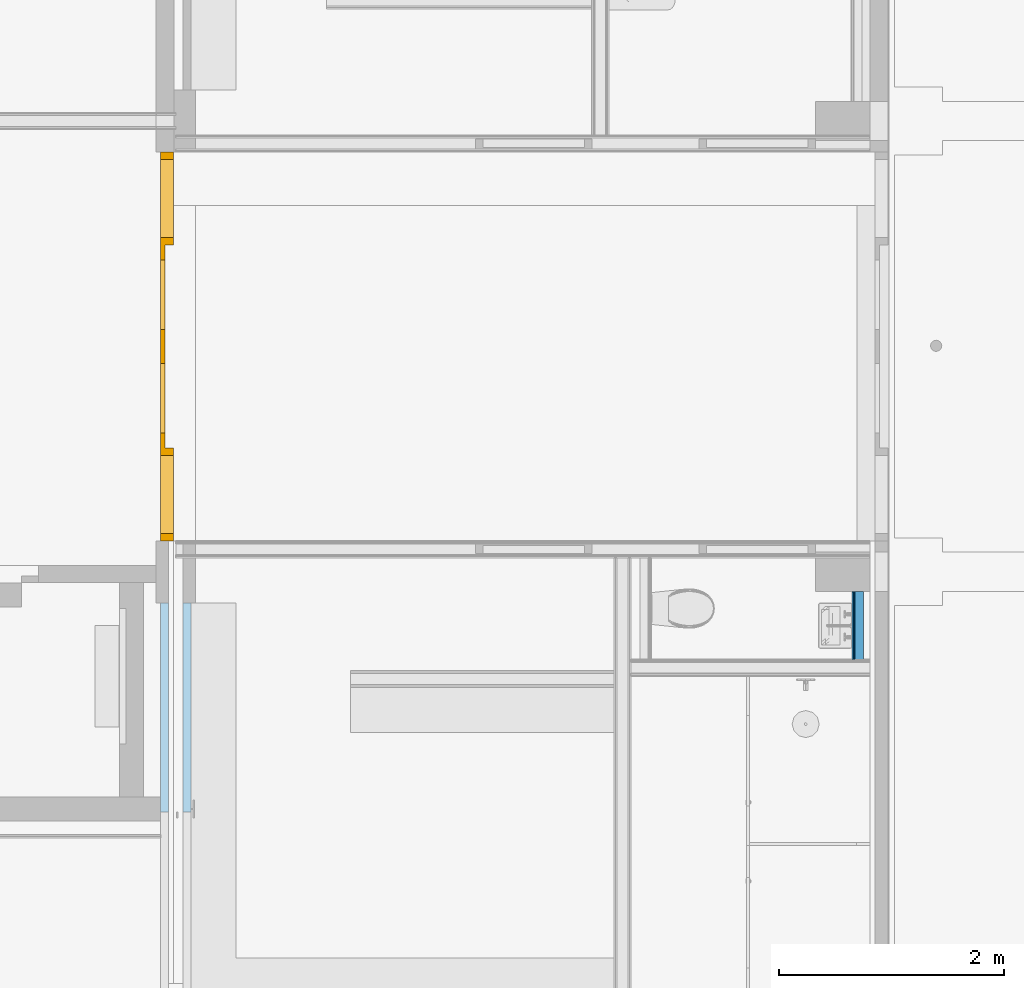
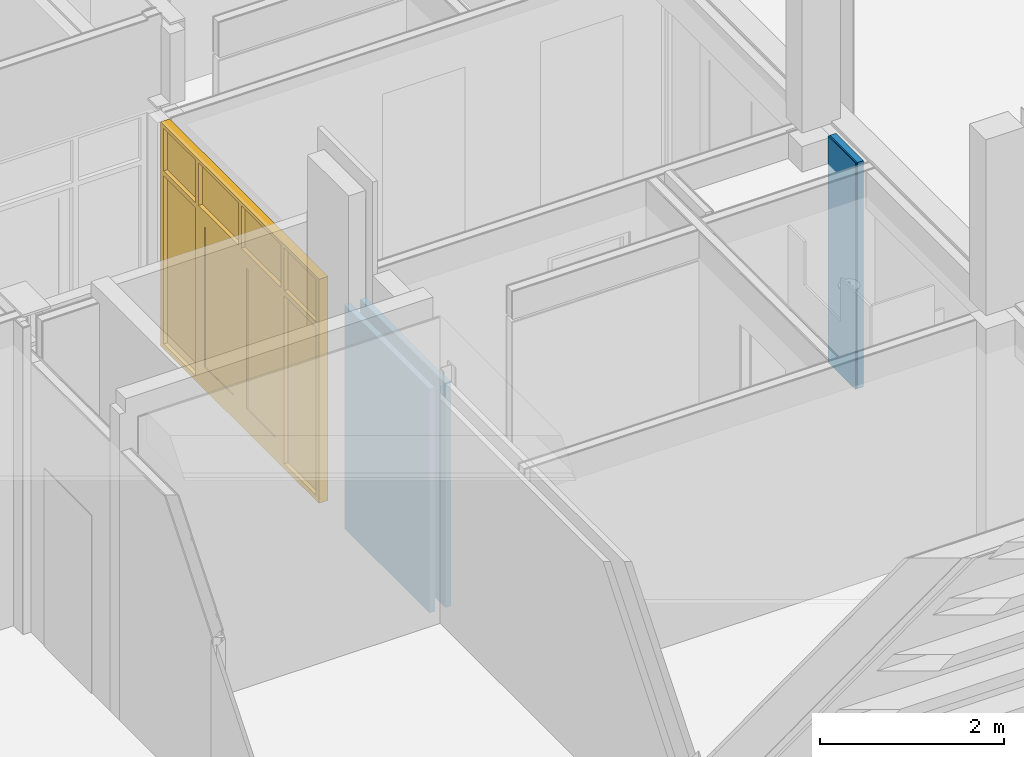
# One storey, part 79 of 109: 3 building element parts, 1 door, 1 opening, 2 elements without a shape of their own, plus 2 elements that do not belong to this part.
"""IFC2X3 building model written with IfcOpenShell, lengths in millimetres."""

from ifc_helpers import new_model, entity, si_unit, converted_unit, derived_unit, money_unit, direction, frame, origin_with_axes, place, context, subcontext, project, spatial, open_shell, faceted_brep, surface_model, material, type_object, element, fill, aggregate, save


model = new_model("IFC2X3")

# Units and contexts
model_context = context("Model", 3, precision=0.01, world=origin_with_axes(), true_north=direction((0.0, 1.0)))
body_context = subcontext(model_context, "Body", "Model", "MODEL_VIEW")
ifc_project = project(units=[si_unit("LENGTHUNIT", "METRE", prefix="MILLI"), si_unit("AREAUNIT", "SQUARE_METRE"), si_unit("VOLUMEUNIT", "CUBIC_METRE"), converted_unit("PLANEANGLEUNIT", "DEGREE", entity("IfcPlaneAngleMeasure", 0.0174532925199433), si_unit("PLANEANGLEUNIT", "RADIAN"), dimensions=[0, 0, 0, 0, 0, 0, 0]), money_unit("EUR"), converted_unit("TIMEUNIT", "Year", entity("IfcTimeMeasure", 31557600.0), si_unit("TIMEUNIT", "SECOND"), dimensions=[0, 0, 1, 0, 0, 0, 0]), si_unit("MASSUNIT", "GRAM", prefix="KILO"), si_unit("THERMODYNAMICTEMPERATUREUNIT", "DEGREE_CELSIUS"), si_unit("LUMINOUSINTENSITYUNIT", "LUMEN"), si_unit("ENERGYUNIT", "JOULE", prefix="MEGA"), derived_unit("THERMALCONDUCTANCEUNIT", [(si_unit("POWERUNIT", "WATT"), 1), (si_unit("LENGTHUNIT", "METRE"), -1), (si_unit("THERMODYNAMICTEMPERATUREUNIT", "KELVIN"), -1)]), derived_unit("SPECIFICHEATCAPACITYUNIT", [(si_unit("ENERGYUNIT", "JOULE"), 1), (si_unit("MASSUNIT", "GRAM", prefix="KILO"), -1), (si_unit("THERMODYNAMICTEMPERATUREUNIT", "KELVIN"), -1)]), derived_unit("MASSDENSITYUNIT", [(si_unit("MASSUNIT", "GRAM", prefix="KILO"), 1), (si_unit("VOLUMEUNIT", "CUBIC_METRE"), -1)])], contexts=[model_context])

# Site, building, storey
site_placement = place(None, origin_with_axes())
site = spatial("IfcSite", under=ifc_project, at=site_placement, Name="<site naam>", CompositionType="ELEMENT")
building_placement = place(site_placement, origin_with_axes())
building = spatial("IfcBuilding", under=site, at=building_placement, Name="<Naam gebouw>", CompositionType="ELEMENT")
storey_placement = place(building_placement, origin_with_axes())
storey = spatial("IfcBuildingStorey", under=building, at=storey_placement, Name="00 Begane grond", CompositionType="ELEMENT", Elevation=0.0)

# Door
door_style = type_object("IfcDoorStyle", Name="D2 bl zl2 27", ConstructionType="NOTDEFINED", OperationType="USERDEFINED", ParameterTakesPrecedence=False, Sizeable=False)
wall_1_placement = place(storey_placement, frame((52000.00000000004, 11725.00000000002, 0.0), z_axis=(0.0, 0.0, 1.0), x_axis=(0.0, -1.0, 0.0)))
opening_placement = place(wall_1_placement, frame((1724.999999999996, 0.0, 0.0), z_axis=(0.0, 0.0, 1.0), x_axis=(1.0, 0.0, 0.0)))
door_placement = place(opening_placement, frame((1724.999999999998, 0.0, 0.0), z_axis=(0.0, 0.0, 1.0), x_axis=(-1.0, 0.0, 0.0)))
door = element("IfcDoor", 1, at=door_placement, inside=storey, type_object=door_style, Name="22_BI-D-06_305", ObjectType="DOOR", OverallHeight=3000.0, OverallWidth=3450.0, context=body_context, shape_type="SurfaceModel", body=[
    faceted_brep([(3449.999999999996, 134.999999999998, 2978.0), (3449.999999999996, 21.0000000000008, 2978.0), (3449.999999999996, 21.0000000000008, 2933.0), (3449.999999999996, 134.999999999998, 2933.0), (0.0, 21.0000000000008, 2978.0), (0.0, 134.999999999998, 2978.0), (0.0, 21.0000000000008, 2933.0), (67.00000000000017, 21.0000000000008, 2933.0), (757.9999999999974, 21.0000000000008, 2933.0), (824.9999999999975, 21.0000000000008, 2933.0), (2624.999999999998, 21.0000000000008, 2933.0), (2691.999999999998, 21.0000000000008, 2933.0), (3382.999999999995, 21.0000000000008, 2933.0), (3382.999999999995, 134.999999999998, 2933.0), (2691.999999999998, 134.999999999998, 2933.0), (2624.999999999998, 134.999999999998, 2933.0), (824.9999999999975, 134.999999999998, 2933.0), (757.9999999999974, 134.999999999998, 2933.0), (67.00000000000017, 134.999999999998, 2933.0), (0.0, 134.999999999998, 2933.0)], [[[0, 1, 2, 3]], [[4, 1, 0, 5]], [[1, 4, 6, 7, 8, 9, 10, 11, 12, 2]], [[13, 3, 2, 12]], [[5, 0, 3, 13, 14, 15, 16, 17, 18, 19]], [[4, 5, 19, 6]], [[19, 18, 7, 6]], [[18, 17, 8, 7]], [[17, 16, 9, 8]], [[16, 15, 10, 9]], [[15, 14, 11, 10]], [[14, 13, 12, 11]]]),
    faceted_brep([(3449.999999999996, 134.999999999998, 0.0), (3449.999999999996, 21.0000000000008, 0.0), (3382.999999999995, 21.0000000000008, 0.0), (3382.999999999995, 134.999999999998, 0.0), (3449.999999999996, 134.999999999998, 2933.0), (3449.999999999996, 21.0000000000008, 2933.0), (3382.999999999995, 21.0000000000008, 2933.0), (3382.999999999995, 21.0000000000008, 2367.0), (3382.999999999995, 21.0000000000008, 2300.0), (3382.999999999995, 21.0000000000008, 66.99999999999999), (3382.999999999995, 134.999999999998, 67.0), (3382.999999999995, 134.999999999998, 2300.0), (3382.999999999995, 134.999999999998, 2367.0), (3382.999999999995, 134.999999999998, 2933.0)], [[[0, 1, 2, 3]], [[4, 5, 1, 0]], [[1, 5, 6, 7, 8, 9, 2]], [[3, 2, 9, 10]], [[0, 3, 10, 11, 12, 13, 4]], [[13, 6, 5, 4]], [[12, 7, 6, 13]], [[11, 8, 7, 12]], [[10, 9, 8, 11]]]),
    faceted_brep([(2624.999999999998, 94.99999999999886, 2317.0), (2624.999999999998, 94.99999999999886, 2300.0), (2624.999999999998, 21.0000000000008, 2300.0), (2624.999999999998, 21.0000000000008, 2367.0), (2624.999999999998, 134.999999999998, 2367.0), (2624.999999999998, 134.999999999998, 2317.0), (2641.999999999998, 94.99999999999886, 2317.0), (2641.999999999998, 94.99999999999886, 0.0), (2624.999999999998, 94.99999999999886, 0.0), (2624.999999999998, 21.0000000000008, 0.0), (2691.999999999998, 21.0000000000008, 0.0), (2691.999999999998, 21.0000000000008, 66.99999999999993), (2691.999999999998, 21.0000000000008, 2300.0), (2691.999999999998, 21.0000000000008, 2367.0), (2691.999999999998, 21.0000000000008, 2933.0), (2624.999999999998, 21.0000000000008, 2933.0), (2624.999999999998, 134.999999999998, 2933.0), (2641.999999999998, 134.999999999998, 2317.0), (2691.999999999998, 134.999999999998, 2933.0), (2691.999999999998, 134.999999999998, 2367.0), (2691.999999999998, 134.999999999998, 2300.0), (2691.999999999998, 134.999999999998, 66.99999999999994), (2691.999999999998, 134.999999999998, 0.0), (2641.999999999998, 134.999999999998, 0.0)], [[[0, 1, 2, 3, 4, 5]], [[0, 6, 7, 8, 1]], [[8, 9, 2, 1]], [[2, 9, 10, 11, 12, 13, 14, 15, 3]], [[16, 4, 3, 15]], [[17, 5, 4, 16, 18, 19, 20, 21, 22, 23]], [[5, 17, 6, 0]], [[23, 7, 6, 17]], [[7, 23, 22, 10, 9, 8]], [[22, 21, 11, 10]], [[21, 20, 12, 11]], [[20, 19, 13, 12]], [[19, 18, 14, 13]], [[18, 16, 15, 14]]]),
    faceted_brep([(3382.999999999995, 134.999999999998, 67.0), (3382.999999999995, 21.0000000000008, 66.99999999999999), (3382.999999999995, 21.0000000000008, 0.0), (3382.999999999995, 134.999999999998, 0.0), (2691.999999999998, 134.999999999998, 67.0), (2691.999999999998, 21.0000000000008, 66.99999999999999), (2691.999999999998, 21.0000000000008, 0.0), (2691.999999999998, 134.999999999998, 0.0)], [[[0, 1, 2, 3]], [[4, 5, 1, 0]], [[1, 5, 6, 2]], [[3, 2, 6, 7]], [[0, 3, 7, 4]], [[7, 6, 5, 4]]]),
    faceted_brep([(0.0, 134.999999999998, 0.0), (0.0, 21.0000000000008, 0.0), (0.0, 21.0000000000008, 2933.0), (0.0, 134.999999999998, 2933.0), (67.00000000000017, 134.999999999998, 0.0), (67.00000000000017, 21.0000000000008, 0.0), (67.00000000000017, 21.0000000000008, 66.99999999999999), (67.00000000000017, 21.0000000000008, 2300.0), (67.00000000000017, 21.0000000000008, 2367.0), (67.00000000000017, 21.0000000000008, 2933.0), (67.00000000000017, 134.999999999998, 2933.0), (67.00000000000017, 134.999999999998, 2367.0), (67.00000000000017, 134.999999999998, 2300.0), (67.00000000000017, 134.999999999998, 67.0)], [[[0, 1, 2, 3]], [[4, 5, 1, 0]], [[1, 5, 6, 7, 8, 9, 2]], [[3, 2, 9, 10]], [[0, 3, 10, 11, 12, 13, 4]], [[13, 6, 5, 4]], [[12, 7, 6, 13]], [[11, 8, 7, 12]], [[10, 9, 8, 11]]]),
    faceted_brep([(807.9999999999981, 134.999999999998, 2317.0), (807.9999999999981, 134.999999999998, 0.0), (757.9999999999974, 134.999999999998, 0.0), (757.9999999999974, 134.999999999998, 66.99999999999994), (757.9999999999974, 134.999999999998, 2300.0), (757.9999999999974, 134.999999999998, 2367.0), (757.9999999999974, 134.999999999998, 2933.0), (824.9999999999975, 134.999999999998, 2933.0), (824.9999999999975, 134.999999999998, 2367.0), (824.9999999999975, 134.999999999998, 2317.0), (807.9999999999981, 94.99999999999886, 2317.0), (807.9999999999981, 94.99999999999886, 0.0), (824.9999999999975, 94.99999999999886, 0.0), (824.9999999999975, 21.0000000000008, 0.0), (757.9999999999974, 21.0000000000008, 0.0), (757.9999999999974, 21.0000000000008, 66.99999999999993), (757.9999999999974, 21.0000000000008, 2300.0), (757.9999999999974, 21.0000000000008, 2367.0), (757.9999999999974, 21.0000000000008, 2933.0), (824.9999999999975, 21.0000000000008, 2933.0), (824.9999999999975, 21.0000000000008, 2367.0), (824.9999999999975, 94.99999999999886, 2317.0), (824.9999999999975, 21.0000000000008, 2300.0), (824.9999999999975, 94.99999999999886, 2300.0)], [[[0, 1, 2, 3, 4, 5, 6, 7, 8, 9]], [[0, 10, 11, 1]], [[11, 12, 13, 14, 2, 1]], [[3, 2, 14, 15]], [[4, 3, 15, 16]], [[5, 4, 16, 17]], [[6, 5, 17, 18]], [[7, 6, 18, 19]], [[8, 7, 19, 20]], [[21, 9, 8, 20, 22, 23]], [[9, 21, 10, 0]], [[11, 10, 21, 23, 12]], [[23, 22, 13, 12]], [[15, 14, 13, 22, 20, 19, 18, 17, 16]]]),
    faceted_brep([(757.9999999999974, 134.999999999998, 67.0), (757.9999999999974, 21.0000000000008, 66.99999999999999), (757.9999999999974, 21.0000000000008, 0.0), (757.9999999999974, 134.999999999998, 0.0), (67.00000000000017, 134.999999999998, 67.0), (67.00000000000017, 21.0000000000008, 66.99999999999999), (67.00000000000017, 21.0000000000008, 0.0), (67.00000000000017, 134.999999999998, 0.0)], [[[0, 1, 2, 3]], [[4, 5, 1, 0]], [[1, 5, 6, 2]], [[3, 2, 6, 7]], [[0, 3, 7, 4]], [[7, 6, 5, 4]]]),
    faceted_brep([(3382.999999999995, 134.999999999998, 2300.0), (3382.999999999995, 21.0000000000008, 2300.0), (2691.999999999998, 21.0000000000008, 2300.0), (2691.999999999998, 134.999999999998, 2300.0), (3382.999999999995, 134.999999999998, 2367.0), (3382.999999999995, 21.0000000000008, 2367.0), (2691.999999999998, 21.0000000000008, 2367.0), (2691.999999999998, 134.999999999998, 2367.0)], [[[0, 1, 2, 3]], [[4, 5, 1, 0]], [[1, 5, 6, 2]], [[3, 2, 6, 7]], [[0, 3, 7, 4]], [[7, 6, 5, 4]]]),
    faceted_brep([(67.00000000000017, 134.999999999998, 2367.0), (67.00000000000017, 21.0000000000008, 2367.0), (757.9999999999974, 21.0000000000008, 2367.0), (757.9999999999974, 134.999999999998, 2367.0), (67.00000000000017, 134.999999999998, 2300.0), (67.00000000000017, 21.0000000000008, 2300.0), (757.9999999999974, 21.0000000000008, 2300.0), (757.9999999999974, 134.999999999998, 2300.0)], [[[0, 1, 2, 3]], [[4, 5, 1, 0]], [[1, 5, 6, 2]], [[3, 2, 6, 7]], [[0, 3, 7, 4]], [[7, 6, 5, 4]]]),
    faceted_brep([(824.9999999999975, 94.99999999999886, 2317.0), (824.9999999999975, 94.99999999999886, 2300.0), (824.9999999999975, 21.0000000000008, 2300.0), (824.9999999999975, 21.0000000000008, 2367.0), (824.9999999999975, 134.999999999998, 2367.0), (824.9999999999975, 134.999999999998, 2317.0), (2624.999999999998, 94.99999999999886, 2317.0), (2624.999999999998, 94.99999999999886, 2300.0), (2624.999999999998, 21.0000000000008, 2300.0), (2624.999999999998, 21.0000000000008, 2367.0), (2624.999999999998, 134.999999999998, 2367.0), (2624.999999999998, 134.999999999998, 2317.0)], [[[0, 1, 2, 3, 4, 5]], [[0, 6, 7, 1]], [[7, 8, 2, 1]], [[8, 9, 3, 2]], [[10, 4, 3, 9]], [[5, 4, 10, 11]], [[5, 11, 6, 0]], [[6, 11, 10, 9, 8, 7]]]),
    faceted_brep([(807.9999999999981, 134.999999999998, 300.0), (957.9999999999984, 134.999999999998, 300.0), (957.9999999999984, 94.99999999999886, 300.0), (807.9999999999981, 94.99999999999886, 300.0), (807.9999999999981, 134.999999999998, 2167.0), (957.9999999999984, 134.999999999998, 2167.0), (957.9999999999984, 94.99999999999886, 2167.0), (807.9999999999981, 94.99999999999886, 2167.0)], [[[0, 1, 2, 3]], [[0, 4, 5, 1]], [[1, 5, 6, 2]], [[3, 2, 6, 7]], [[4, 0, 3, 7]], [[5, 4, 7, 6]]]),
    faceted_brep([(1724.999999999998, 134.999999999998, 300.0), (1724.999999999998, 134.999999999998, 2167.0), (1724.999999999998, 94.99999999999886, 2167.0), (1724.999999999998, 94.99999999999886, 300.0), (1574.999999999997, 134.999999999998, 300.0), (1574.999999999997, 134.999999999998, 2167.0), (1574.999999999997, 94.99999999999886, 2167.0), (1574.999999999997, 94.99999999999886, 300.0)], [[[0, 1, 2, 3]], [[0, 4, 5, 1]], [[1, 5, 6, 2]], [[3, 2, 6, 7]], [[4, 0, 3, 7]], [[5, 4, 7, 6]]]),
    faceted_brep([(807.9999999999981, 134.999999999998, 0.0), (1724.999999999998, 134.999999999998, 0.0), (1724.999999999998, 94.99999999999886, 0.0), (807.9999999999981, 94.99999999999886, 0.0), (807.9999999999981, 134.999999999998, 300.0), (957.9999999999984, 134.999999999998, 300.0), (1574.999999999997, 134.999999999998, 300.0), (1724.999999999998, 134.999999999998, 300.0), (1724.999999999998, 94.99999999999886, 300.0), (1574.999999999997, 94.99999999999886, 300.0), (957.9999999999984, 94.99999999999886, 300.0), (807.9999999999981, 94.99999999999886, 300.0)], [[[0, 1, 2, 3]], [[0, 4, 5, 6, 7, 1]], [[1, 7, 8, 2]], [[3, 2, 8, 9, 10, 11]], [[4, 0, 3, 11]], [[5, 4, 11, 10]], [[6, 5, 10, 9]], [[7, 6, 9, 8]]]),
    faceted_brep([(807.9999999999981, 134.999999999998, 2317.0), (807.9999999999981, 134.999999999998, 2167.0), (807.9999999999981, 94.99999999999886, 2167.0), (807.9999999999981, 94.99999999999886, 2317.0), (1724.999999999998, 134.999999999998, 2317.0), (1724.999999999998, 134.999999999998, 2167.0), (1574.999999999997, 134.999999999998, 2167.0), (957.9999999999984, 134.999999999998, 2167.0), (957.9999999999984, 94.99999999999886, 2167.0), (1574.999999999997, 94.99999999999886, 2167.0), (1724.999999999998, 94.99999999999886, 2167.0), (1724.999999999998, 94.99999999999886, 2317.0)], [[[0, 1, 2, 3]], [[0, 4, 5, 6, 7, 1]], [[1, 7, 8, 2]], [[3, 2, 8, 9, 10, 11]], [[4, 0, 3, 11]], [[5, 4, 11, 10]], [[6, 5, 10, 9]], [[7, 6, 9, 8]]]),
    surface_model("IfcShellBasedSurfaceModel", [(957.9999999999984, 120.9999999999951, 300.0), (957.9999999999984, 120.9999999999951, 2167.0), (1574.999999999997, 120.9999999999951, 2167.0), (1574.999999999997, 120.9999999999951, 300.0)], [open_shell([[[0, 1, 2, 3]]])]),
    surface_model("IfcShellBasedSurfaceModel", [(957.9999999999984, 109.0000000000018, 300.0), (1574.999999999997, 108.9999999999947, 300.0), (1574.999999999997, 108.9999999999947, 2167.0), (957.9999999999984, 108.9999999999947, 2167.0)], [open_shell([[[0, 1, 2, 3]]])]),
    faceted_brep([(2641.999999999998, 134.999999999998, 300.0), (2641.999999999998, 94.99999999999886, 300.0), (2491.999999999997, 94.99999999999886, 300.0), (2491.999999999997, 134.999999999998, 300.0), (2641.999999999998, 134.999999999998, 2167.0), (2641.999999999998, 94.99999999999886, 2167.0), (2491.999999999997, 94.99999999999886, 2167.0), (2491.999999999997, 134.999999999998, 2167.0)], [[[0, 1, 2, 3]], [[4, 5, 1, 0]], [[1, 5, 6, 2]], [[3, 2, 6, 7]], [[0, 3, 7, 4]], [[7, 6, 5, 4]]]),
    faceted_brep([(1724.999999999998, 134.999999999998, 300.0), (1724.999999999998, 94.99999999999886, 300.0), (1724.999999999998, 94.99999999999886, 2167.0), (1724.999999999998, 134.999999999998, 2167.0), (1874.999999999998, 134.999999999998, 300.0), (1874.999999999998, 94.99999999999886, 300.0), (1874.999999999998, 94.99999999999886, 2167.0), (1874.999999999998, 134.999999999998, 2167.0)], [[[0, 1, 2, 3]], [[4, 5, 1, 0]], [[1, 5, 6, 2]], [[3, 2, 6, 7]], [[0, 3, 7, 4]], [[7, 6, 5, 4]]]),
    faceted_brep([(2641.999999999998, 134.999999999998, 0.0), (2641.999999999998, 94.99999999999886, 0.0), (1724.999999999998, 94.99999999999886, 0.0), (1724.999999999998, 134.999999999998, 0.0), (2641.999999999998, 134.999999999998, 300.0), (2641.999999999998, 94.99999999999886, 300.0), (2491.999999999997, 94.99999999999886, 300.0), (1874.999999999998, 94.99999999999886, 300.0), (1724.999999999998, 94.99999999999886, 300.0), (1724.999999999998, 134.999999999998, 300.0), (1874.999999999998, 134.999999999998, 300.0), (2491.999999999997, 134.999999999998, 300.0)], [[[0, 1, 2, 3]], [[4, 5, 1, 0]], [[1, 5, 6, 7, 8, 2]], [[3, 2, 8, 9]], [[0, 3, 9, 10, 11, 4]], [[11, 6, 5, 4]], [[10, 7, 6, 11]], [[9, 8, 7, 10]]]),
    faceted_brep([(2641.999999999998, 134.999999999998, 2317.0), (2641.999999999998, 94.99999999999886, 2317.0), (2641.999999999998, 94.99999999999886, 2167.0), (2641.999999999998, 134.999999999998, 2167.0), (1724.999999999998, 134.999999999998, 2317.0), (1724.999999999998, 94.99999999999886, 2317.0), (1724.999999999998, 94.99999999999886, 2167.0), (1874.999999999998, 94.99999999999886, 2167.0), (2491.999999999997, 94.99999999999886, 2167.0), (2491.999999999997, 134.999999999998, 2167.0), (1874.999999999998, 134.999999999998, 2167.0), (1724.999999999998, 134.999999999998, 2167.0)], [[[0, 1, 2, 3]], [[4, 5, 1, 0]], [[1, 5, 6, 7, 8, 2]], [[3, 2, 8, 9]], [[0, 3, 9, 10, 11, 4]], [[11, 6, 5, 4]], [[10, 7, 6, 11]], [[9, 8, 7, 10]]]),
    surface_model("IfcShellBasedSurfaceModel", [(2491.999999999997, 120.9999999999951, 300.0), (1874.999999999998, 120.9999999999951, 300.0), (1874.999999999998, 120.9999999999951, 2167.0), (2491.999999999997, 120.9999999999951, 2167.0)], [open_shell([[[0, 1, 2, 3]]])]),
    surface_model("IfcShellBasedSurfaceModel", [(2491.999999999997, 108.9999999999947, 300.0), (2491.999999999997, 108.9999999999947, 2167.0), (1874.999999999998, 108.9999999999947, 2167.0), (1874.999999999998, 108.9999999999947, 300.0)], [open_shell([[[0, 1, 2, 3]]])]),
    surface_model("IfcShellBasedSurfaceModel", [(3382.999999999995, 74.99999999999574, 2367.0), (3382.999999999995, 74.99999999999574, 2933.0), (2691.999999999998, 74.99999999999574, 2933.0), (2691.999999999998, 74.99999999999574, 2367.0)], [open_shell([[[0, 1, 2, 3]]])]),
    surface_model("IfcShellBasedSurfaceModel", [(3382.999999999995, 86.99999999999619, 2367.0), (2691.999999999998, 86.99999999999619, 2367.0), (2691.999999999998, 86.99999999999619, 2933.0), (3382.999999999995, 86.99999999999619, 2933.0)], [open_shell([[[0, 1, 2, 3]]])]),
    surface_model("IfcShellBasedSurfaceModel", [(1758.499999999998, 74.99999999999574, 2367.0), (2624.999999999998, 74.99999999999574, 2367.0), (2624.999999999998, 74.99999999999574, 2933.0), (1758.499999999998, 74.99999999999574, 2933.0)], [open_shell([[[0, 1, 2, 3]]])]),
    surface_model("IfcShellBasedSurfaceModel", [(1758.499999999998, 86.99999999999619, 2367.0), (1758.499999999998, 86.99999999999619, 2933.0), (2624.999999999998, 86.99999999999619, 2933.0), (2624.999999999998, 86.99999999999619, 2367.0)], [open_shell([[[0, 1, 2, 3]]])]),
    surface_model("IfcShellBasedSurfaceModel", [(824.9999999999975, 74.99999999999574, 2367.0), (1691.499999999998, 74.99999999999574, 2367.0), (1691.499999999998, 74.99999999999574, 2933.0), (824.9999999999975, 74.99999999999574, 2933.0)], [open_shell([[[0, 1, 2, 3]]])]),
    surface_model("IfcShellBasedSurfaceModel", [(824.9999999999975, 86.99999999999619, 2367.0), (824.9999999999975, 86.99999999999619, 2933.0), (1691.499999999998, 86.99999999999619, 2933.0), (1691.499999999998, 86.99999999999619, 2367.0)], [open_shell([[[0, 1, 2, 3]]])]),
    faceted_brep([(1758.499999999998, 21.0000000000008, 2367.0), (1691.499999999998, 21.0000000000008, 2367.0), (1691.499999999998, 134.999999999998, 2367.0), (1758.499999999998, 134.999999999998, 2367.0), (1758.499999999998, 21.0000000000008, 2933.0), (1691.499999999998, 21.0000000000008, 2933.0), (1691.499999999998, 134.999999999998, 2933.0), (1758.499999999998, 134.999999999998, 2933.0)], [[[0, 1, 2, 3]], [[0, 4, 5, 1]], [[1, 5, 6, 2]], [[3, 2, 6, 7]], [[4, 0, 3, 7]], [[5, 4, 7, 6]]]),
    surface_model("IfcShellBasedSurfaceModel", [(757.9999999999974, 74.99999999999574, 2367.0), (757.9999999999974, 74.99999999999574, 2933.0), (67.00000000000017, 74.99999999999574, 2933.0), (67.00000000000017, 74.99999999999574, 2367.0)], [open_shell([[[0, 1, 2, 3]]])]),
    surface_model("IfcShellBasedSurfaceModel", [(757.9999999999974, 86.99999999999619, 2367.0), (67.00000000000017, 86.99999999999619, 2367.0), (67.00000000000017, 86.99999999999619, 2933.0), (757.9999999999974, 86.99999999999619, 2933.0)], [open_shell([[[0, 1, 2, 3]]])]),
    surface_model("IfcShellBasedSurfaceModel", [(3382.999999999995, 74.99999999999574, 67.0), (3382.999999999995, 74.99999999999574, 2300.0), (2691.999999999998, 74.99999999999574, 2300.0), (2691.999999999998, 74.99999999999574, 67.0)], [open_shell([[[0, 1, 2, 3]]])]),
    surface_model("IfcShellBasedSurfaceModel", [(3382.999999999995, 86.99999999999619, 67.0), (2691.999999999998, 86.99999999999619, 67.0), (2691.999999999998, 86.99999999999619, 2300.0), (3382.999999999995, 86.99999999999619, 2300.0)], [open_shell([[[0, 1, 2, 3]]])]),
    surface_model("IfcShellBasedSurfaceModel", [(757.9999999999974, 74.99999999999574, 67.0), (757.9999999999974, 74.99999999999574, 2300.0), (67.00000000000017, 74.99999999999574, 2300.0), (67.00000000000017, 74.99999999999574, 67.0)], [open_shell([[[0, 1, 2, 3]]])]),
    surface_model("IfcShellBasedSurfaceModel", [(757.9999999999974, 86.99999999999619, 67.0), (67.00000000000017, 86.99999999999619, 67.0), (67.00000000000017, 86.99999999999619, 2300.0), (757.9999999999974, 86.99999999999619, 2300.0)], [open_shell([[[0, 1, 2, 3]]])]),
])

# Wall, opening
wall_type_1 = type_object("IfcWallType", Name="metalstud-lucht-metalstud 270 270", PredefinedType="NOTDEFINED")
wall_1 = element("IfcWall", 2, at=wall_1_placement, inside=storey, type_object=wall_type_1, Name="22_Binnenwand_metalstud-lucht-metalstud")
opening = element("IfcOpeningElement", 3, at=opening_placement, cuts=wall_1, Name="22_BI-D-06_305", context=body_context, shape_type="Brep", body=[
    faceted_brep([(1724.999999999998, 136.0000000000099, 3000.0), (1724.999999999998, 136.0000000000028, 0.0), (-1724.999999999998, 136.0000000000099, 0.0), (-1724.999999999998, 136.0000000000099, 3000.0), (1724.999999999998, -136.0000000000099, 3000.0), (1724.999999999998, -136.000000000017, 0.0), (-1724.999999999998, -136.0000000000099, 0.0), (-1724.999999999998, -136.0000000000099, 3000.0)], [[[0, 1, 2, 3]], [[4, 5, 1, 0]], [[5, 6, 2, 1]], [[6, 7, 3, 2]], [[7, 4, 0, 3]], [[6, 5, 4, 7]]]),
])

fill(opening, door)

# Building element part
ifc_material_1 = material(Name="metal_stud")
building_element_part_1_placement = place(wall_1_placement, origin_with_axes())
building_element_part_1 = element("IfcBuildingElementPart", 4, at=building_element_part_1_placement, material=ifc_material_1, Name="metal_stud", context=body_context, shape_type="Brep", body=[
    faceted_brep([(5853.999999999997, 134.999999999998, 0.0), (3999.999999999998, 134.999999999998, 0.0), (3999.999999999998, 134.999999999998, 2978.0), (5853.999999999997, 134.999999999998, 2978.0), (5853.999999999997, 64.99999999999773, 0.0), (3999.999999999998, 64.99999999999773, 0.0), (3999.999999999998, 64.99999999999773, 2978.0), (5853.999999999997, 64.99999999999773, 2978.0)], [[[0, 1, 2, 3]], [[4, 5, 1, 0]], [[5, 6, 2, 1]], [[3, 2, 6, 7]], [[4, 0, 3, 7]], [[7, 6, 5, 4]]]),
    faceted_brep([(0.0, 64.99999999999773, 2978.0), (3449.999999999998, 64.99999999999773, 2978.0), (3449.999999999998, 134.999999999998, 2978.0), (0.0, 134.999999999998, 2978.0), (0.0, 64.99999999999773, 0.0), (3449.999999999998, 64.99999999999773, 0.0), (3449.999999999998, 134.999999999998, 0.0), (0.0, 134.999999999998, 0.0)], [[[0, 1, 2, 3]], [[4, 5, 1, 0]], [[5, 6, 2, 1]], [[3, 2, 6, 7]], [[7, 4, 0, 3]], [[7, 6, 5, 4]]]),
])

building_element_part_2_placement = place(wall_1_placement, origin_with_axes())
building_element_part_2 = element("IfcBuildingElementPart", 5, at=building_element_part_2_placement, material=ifc_material_1, Name="metal_stud", context=body_context, shape_type="Brep", body=[
    faceted_brep([(5853.999999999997, -64.99999999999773, 0.0), (3999.999999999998, -64.99999999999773, 0.0), (3999.999999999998, -64.99999999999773, 2978.0), (5853.999999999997, -64.99999999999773, 2978.0), (5853.999999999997, -134.999999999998, 0.0), (3999.999999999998, -134.999999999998, 0.0), (3999.999999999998, -134.999999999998, 2978.0), (5853.999999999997, -134.999999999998, 2978.0)], [[[0, 1, 2, 3]], [[4, 5, 1, 0]], [[5, 6, 2, 1]], [[3, 2, 6, 7]], [[4, 0, 3, 7]], [[7, 6, 5, 4]]]),
    faceted_brep([(0.0, -134.999999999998, 2978.0), (3449.999999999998, -134.999999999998, 2978.0), (3449.999999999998, -64.99999999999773, 2978.0), (0.0, -64.99999999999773, 2978.0), (0.0, -134.999999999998, 0.0), (3449.999999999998, -134.999999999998, 0.0), (3449.999999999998, -64.99999999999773, 0.0), (0.0, -64.99999999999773, 0.0)], [[[0, 1, 2, 3]], [[4, 5, 1, 0]], [[5, 6, 2, 1]], [[3, 2, 6, 7]], [[7, 4, 0, 3]], [[7, 6, 5, 4]]]),
])

aggregate(wall_1, [building_element_part_1, building_element_part_2])

# Wall, building element parts
wall_type_2 = type_object("IfcWallType", Name="MS-03 GF 100 HTT DGS V/100.2 100", PredefinedType="NOTDEFINED")
wall_2_placement = place(storey_placement, frame((57999.99995868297, 7225.000000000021, 0.0), z_axis=(0.0, 0.0, 1.0), x_axis=(7.621875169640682e-08, 0.9999999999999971, 0.0)))
wall_2 = element("IfcWall", 6, at=wall_2_placement, inside=storey, type_object=wall_type_2, Name="22_Binnenwand_MS-03")
ifc_material_2 = material(Name="gipsplaat")
building_element_part_3_placement = place(wall_2_placement, origin_with_axes())
building_element_part_3 = element("IfcBuildingElementPart", 7, at=building_element_part_3_placement, material=ifc_material_2, Name="gipsplaat", context=body_context, shape_type="Brep", body=[
    faceted_brep([(2.749409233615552e-05, -12.50000000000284, 2.999999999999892), (600.0000152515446, -12.49995426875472, 2.999999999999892), (599.9999620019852, -12.49995426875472, 3008.0), (9.527338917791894e-07, -12.50000000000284, 3008.0), (600.0000142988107, 4.573124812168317e-05, 2.999999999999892), (2.654135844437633e-05, 0.0, 2.999999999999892), (599.9999610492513, 4.573124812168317e-05, 3008.0), (0.0, 0.0, 3008.0)], [[[0, 1, 2, 3]], [[4, 1, 0, 5]], [[1, 4, 6, 2]], [[3, 2, 6, 7]], [[5, 0, 3, 7]], [[4, 5, 7, 6]]]),
])
building_element_part_4_placement = place(wall_2_placement, origin_with_axes())
building_element_part_4 = element("IfcBuildingElementPart", 8, at=building_element_part_4_placement, material=ifc_material_2, Name="gipsplaat", context=body_context, shape_type="Brep", body=[
    faceted_brep([(2.844682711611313e-05, -24.99999999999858, 2.999999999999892), (600.0000162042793, -24.99995426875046, 2.999999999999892), (599.9999620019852, -24.99995426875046, 3008.0), (1.905468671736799e-06, -24.99999999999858, 3008.0), (600.0000152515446, -12.49995426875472, 2.999999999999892), (2.749409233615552e-05, -12.50000000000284, 2.999999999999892), (599.9999610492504, -12.49995426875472, 3008.0), (9.527338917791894e-07, -12.50000000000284, 3008.0)], [[[0, 1, 2, 3]], [[4, 1, 0, 5]], [[1, 4, 6, 2]], [[3, 2, 6, 7]], [[5, 0, 3, 7]], [[4, 5, 7, 6]]]),
])
ifc_material_3 = material(Name="isolatie_steenwol LSW")
building_element_part_5_placement = place(wall_2_placement, origin_with_axes())
building_element_part_5 = element("IfcBuildingElementPart", 9, at=building_element_part_5_placement, material=ifc_material_3, Name="isolatie_steenwol LSW", context=body_context, shape_type="Brep", body=[
    faceted_brep([(3.416323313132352e-05, -100.0000000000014, 2.999999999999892), (600.0000219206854, -99.9999542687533, 2.999999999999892), (599.9999620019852, -99.9999542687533, 3008.0), (7.621874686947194e-06, -100.0000000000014, 3008.0), (600.0000162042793, -24.99995426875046, 2.999999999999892), (2.844682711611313e-05, -24.99999999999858, 2.999999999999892), (599.9999562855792, -24.99995426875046, 3008.0), (1.905468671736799e-06, -24.99999999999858, 3008.0)], [[[0, 1, 2, 3]], [[4, 1, 0, 5]], [[1, 4, 6, 2]], [[3, 2, 6, 7]], [[5, 0, 3, 7]], [[4, 5, 7, 6]]]),
])
aggregate(wall_2, [building_element_part_3, building_element_part_4, building_element_part_5])

save(model, "model.ifc")
